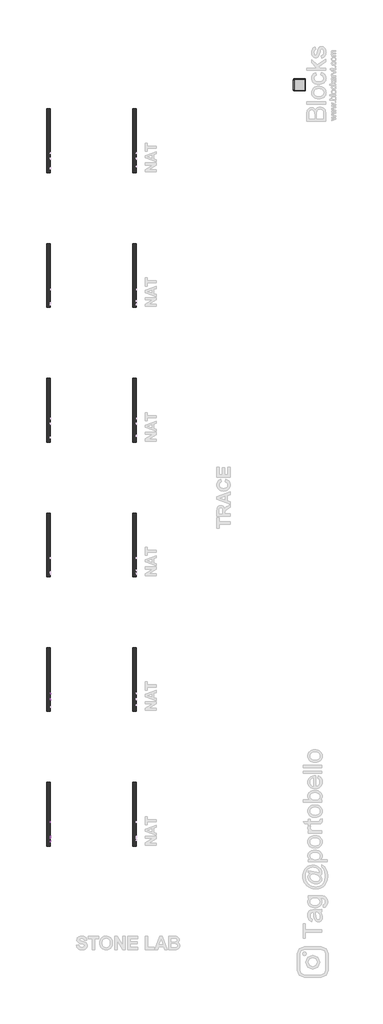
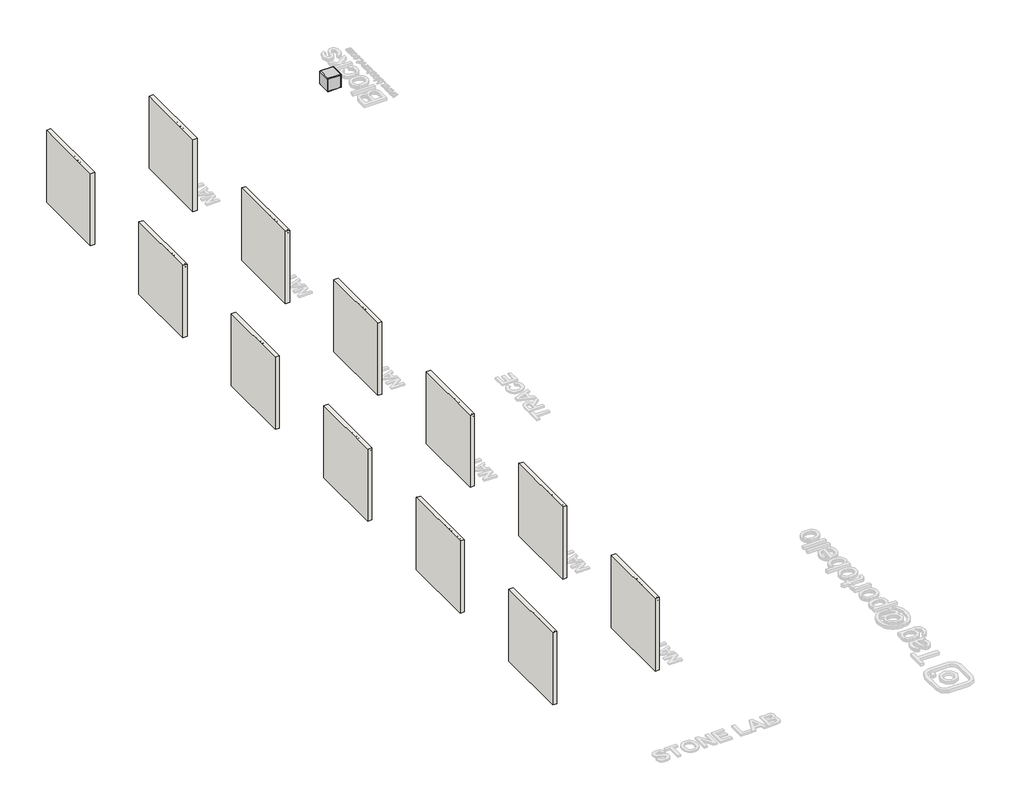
# One storey, part 1 of 9: 12 walls, 5 proxies, 1 furniture element.
"""IFC4 building model written with IfcOpenShell, lengths in millimetres."""

from ifc_helpers import new_model, si_unit, frame, origin, place, context, project, spatial, polyline, outline, extrude, transform, mapped, element, save
from components import branco_22256ad2

model = new_model("IFC4")

# Units and contexts
model_context = context("Model", 3, world=origin())
ifc_project = project(units=[si_unit("LENGTHUNIT", "METRE", prefix="MILLI")], contexts=[model_context])

# Site, building, storey
site = spatial("IfcSite", under=ifc_project)
building = spatial("IfcBuilding", under=site)
storey = spatial("IfcBuildingStorey", under=building, Name="PORTOBELLO - SHOWROOM", Elevation=0.0)

# Proxies
placement = place(None, origin())
element("IfcBuildingElementProxy", 1, Name="10mm Arial", ObjectType="10mm Arial", at=placement, inside=storey, context=model_context, shape_type="SweptSolid", body=[
    extrude(outline(polyline([(-7639.686688, 2567.3783476), (-7636.3389619, 2589.5922887), (-7626.2957834, 2606.3983645), (-7610.9612356, 2616.9749719), (-7591.7394013, 2620.5005077), (-7578.5630945, 2618.8450387), (-7566.7479511, 2613.8786317), (-7556.9377646, 2605.9507747), (-7549.7763284, 2595.4109556), (-7545.3985327, 2582.7680777), (-7543.9392674, 2568.5310445), (-7545.4751747, 2554.1039389), (-7550.0828967, 2541.2832514), (-7557.5079817, 2530.7250381), (-7567.4959778, 2523.0853553), (-7579.2099537, 2518.4500422), (-7591.8129777, 2516.9049378), (-7605.1916196, 2518.6125234), (-7617.0742081, 2523.7352802), (-7626.8598691, 2531.81029), (-7633.9477289, 2542.3746346), (-7639.686688, 2567.3783476)]), holes=[polyline([(-7627.1296493, 2567.2557202), (-7624.6188546, 2551.5410277), (-7617.0864708, 2539.5664687), (-7605.7649024, 2531.9880996), (-7591.8865541, 2529.4619766), (-7577.8058707, 2532.0126251), (-7566.4659082, 2539.6645706), (-7558.9887067, 2552.0070115), (-7556.4963062, 2568.6291463), (-7560.7637373, 2589.3531654), (-7573.234937, 2603.0751638), (-7591.6658249, 2607.9434689), (-7605.1732255, 2605.5982212), (-7616.6572751, 2598.562478), (-7624.5115557, 2586.0452931), (-7627.1296493, 2567.2557202)])]), frame((-17115.5080774, 0.0, 0.0), z_axis=(1.0, 0.0, 0.0), x_axis=(0.0, 1.0, 0.0)), (0.0, 0.0, 1.0), 20.0),
    extrude(outline(polyline([(-7484.2933333, 2518.4745677), (-7484.2933333, 2579.6901317), (-7495.2807422, 2579.6901317), (-7495.2807422, 2592.2471704), (-7484.2933333, 2592.2471704), (-7484.2933333, 2599.6783867), (-7482.9689581, 2610.1507609), (-7476.5432859, 2617.6310281), (-7463.8881453, 2620.5005077), (-7452.4347525, 2619.1270815), (-7454.2741625, 2607.3548577), (-7461.509175, 2607.9434689), (-7469.4186379, 2605.8588043), (-7471.7362945, 2598.0842314), (-7471.7362945, 2592.2471704), (-7457.6096259, 2592.2471704), (-7457.6096259, 2579.6901317), (-7471.7362945, 2579.6901317), (-7471.7362945, 2518.4745677), (-7484.2933333, 2518.4745677)])), frame((-17115.5080774, 0.0, 0.0), z_axis=(1.0, 0.0, 0.0), x_axis=(0.0, 1.0, 0.0)), (0.0, 0.0, 1.0), 20.0),
    extrude(outline(polyline([(-7525.1037093, 2518.4745677), (-7525.1037093, 2579.6901317), (-7536.0911182, 2579.6901317), (-7536.0911182, 2592.2471704), (-7525.1037093, 2592.2471704), (-7525.1037093, 2599.6783867), (-7523.7793341, 2610.1507609), (-7517.3536619, 2617.6310281), (-7504.6985213, 2620.5005077), (-7493.2451285, 2619.1270815), (-7495.0845385, 2607.3548577), (-7502.319551, 2607.9434689), (-7510.2290139, 2605.8588043), (-7512.5466705, 2598.0842314), (-7512.5466705, 2592.2471704), (-7498.4200019, 2592.2471704), (-7498.4200019, 2579.6901317), (-7512.5466705, 2579.6901317), (-7512.5466705, 2518.4745677), (-7525.1037093, 2518.4745677)])), frame((-17115.5080774, 0.0, 0.0), z_axis=(1.0, 0.0, 0.0), x_axis=(0.0, 1.0, 0.0)), (0.0, 0.0, 1.0), 20.0),
    extrude(outline(polyline([(-7387.8346741, 2518.4745677), (-7415.22962, 2618.9308778), (-7402.2801738, 2618.9308778), (-7386.3876716, 2552.9083224), (-7381.4825783, 2532.5276599), (-7376.2341285, 2550.5538776), (-7356.3194499, 2618.9308778), (-7337.65557, 2618.9308778), (-7323.1855448, 2569.3649103), (-7312.4188651, 2532.5276599), (-7307.6609246, 2552.3197112), (-7291.6457951, 2618.9308778), (-7278.6718234, 2618.9308778), (-7306.0422439, 2518.4745677), (-7319.4821994, 2518.4745677), (-7343.5907328, 2595.9750413), (-7346.9507217, 2606.790772), (-7350.7276435, 2593.7677493), (-7372.6779359, 2518.4745677), (-7387.8346741, 2518.4745677)])), frame((-17115.5080774, 0.0, 0.0), z_axis=(1.0, 0.0, 0.0), x_axis=(0.0, 1.0, 0.0)), (0.0, 0.0, 1.0), 20.0),
    extrude(outline(polyline([(-7267.6844145, 2518.4745677), (-7267.6844145, 2618.9308778), (-7255.1273757, 2618.9308778), (-7255.1273757, 2581.9955255), (-7245.3355833, 2590.8614816), (-7233.2751852, 2593.8168003), (-7219.1730421, 2590.5917015), (-7210.6136543, 2581.6766944), (-7208.0384803, 2565.1710556), (-7208.0384803, 2518.4745677), (-7220.5955191, 2518.4745677), (-7220.5955191, 2563.8712059), (-7224.5931701, 2577.1149577), (-7235.9239356, 2581.2597615), (-7246.2123687, 2578.4638583), (-7253.0794993, 2570.8854892), (-7255.1273757, 2557.6662629), (-7255.1273757, 2518.4745677), (-7267.6844145, 2518.4745677)])), frame((-17115.5080774, 0.0, 0.0), z_axis=(1.0, 0.0, 0.0), x_axis=(0.0, 1.0, 0.0)), (0.0, 0.0, 1.0), 20.0),
    extrude(outline(polyline([(-17095.5080774, -7178.2155133), (-17095.5080774, -7190.772552), (-17115.5080774, -7190.772552), (-17115.5080774, -7178.2155133), (-17095.5080774, -7178.2155133)])), frame((0.0, 0.0, 2606.373839), z_axis=(0.0, 0.0, 1.0), x_axis=(1.0, 0.0, 0.0)), (0.0, 0.0, 1.0), 12.5570388),
    extrude(outline(polyline([(-17095.5080774, -7178.2155133), (-17095.5080774, -7190.772552), (-17115.5080774, -7190.772552), (-17115.5080774, -7178.2155133), (-17095.5080774, -7178.2155133)])), frame((0.0, 0.0, 2518.4745677), z_axis=(0.0, 0.0, 1.0), x_axis=(1.0, 0.0, 0.0)), (0.0, 0.0, 1.0), 73.7726028),
    extrude(outline(polyline([(-7132.6962477, 2528.9469418), (-7131.1266179, 2518.1066857), (-7140.5198715, 2516.9049378), (-7151.0412966, 2518.9896025), (-7156.2897464, 2524.4587815), (-7157.8103253, 2538.7080774), (-7157.8103253, 2579.6901317), (-7167.2281043, 2579.6901317), (-7167.2281043, 2592.2471704), (-7157.8103253, 2592.2471704), (-7157.8103253, 2610.1752863), (-7145.2532865, 2617.5574517), (-7145.2532865, 2592.2471704), (-7132.6962477, 2592.2471704), (-7132.6962477, 2579.6901317), (-7145.2532865, 2579.6901317), (-7145.2532865, 2539.0759594), (-7144.5910989, 2532.6012363), (-7142.4451206, 2530.3081052), (-7138.1654267, 2529.4619766), (-7132.6962477, 2528.9469418)])), frame((-17115.5080774, 0.0, 0.0), z_axis=(1.0, 0.0, 0.0), x_axis=(0.0, 1.0, 0.0)), (0.0, 0.0, 1.0), 20.0),
    extrude(outline(polyline([(-7068.4885768, 2540.4493855), (-7056.1767927, 2538.8797557), (-7060.6128365, 2529.602998), (-7067.6914992, 2522.6684224), (-7077.2533654, 2518.345809), (-7089.1390195, 2516.9049378), (-7103.8726934, 2519.391207), (-7115.2095902, 2526.8500144), (-7122.4384714, 2538.7969822), (-7124.8480985, 2554.7477324), (-7122.413946, 2571.2349771), (-7115.1114884, 2583.5651553), (-7103.9278757, 2591.253889), (-7089.850258, 2593.8168003), (-7076.2110331, 2591.2600204), (-7065.312529, 2583.5896808), (-7058.1664212, 2571.2840281), (-7055.7843853, 2554.8213088), (-7055.8579617, 2551.4367944), (-7112.2910597, 2551.4367944), (-7110.1174903, 2542.0374095), (-7105.0683099, 2535.1273593), (-7097.7811807, 2530.8783223), (-7088.8937648, 2529.4619766), (-7076.5819807, 2532.0862015), (-7068.4885768, 2540.4493855)]), holes=[polyline([(-7112.2910597, 2563.9938332), (-7068.341424, 2563.9938332), (-7073.3691446, 2575.3736496), (-7080.6899964, 2579.7882335), (-7089.899309, 2581.2597615), (-7105.3626155, 2576.5631347), (-7110.2278549, 2571.0724959), (-7112.2910597, 2563.9938332)])]), frame((-17115.5080774, 0.0, 0.0), z_axis=(1.0, 0.0, 0.0), x_axis=(0.0, 1.0, 0.0)), (0.0, 0.0, 1.0), 20.0),
    extrude(outline(polyline([(-7002.4169705, 2518.4745677), (-7002.4169705, 2618.9308778), (-6980.8836111, 2618.9308778), (-6960.2822193, 2548.1258565), (-6956.1128901, 2533.3370003), (-6951.6247297, 2549.3521298), (-6931.4157454, 2618.9308778), (-6909.8088096, 2618.9308778), (-6909.8088096, 2518.4745677), (-6922.3658484, 2518.4745677), (-6922.3658484, 2606.373839), (-6947.6025532, 2518.4745677), (-6964.5987014, 2518.4745677), (-6989.8599317, 2606.373839), (-6989.8599317, 2518.4745677), (-7002.4169705, 2518.4745677)])), frame((-17115.5080774, 0.0, 0.0), z_axis=(1.0, 0.0, 0.0), x_axis=(0.0, 1.0, 0.0)), (0.0, 0.0, 1.0), 20.0),
    extrude(outline(polyline([(-17095.5080774, -6876.8465828), (-17095.5080774, -6889.4036216), (-17115.5080774, -6889.4036216), (-17115.5080774, -6876.8465828), (-17095.5080774, -6876.8465828)])), frame((0.0, 0.0, 2606.373839), z_axis=(0.0, 0.0, 1.0), x_axis=(1.0, 0.0, 0.0)), (0.0, 0.0, 1.0), 12.5570388),
    extrude(outline(polyline([(-17095.5080774, -6876.8465828), (-17095.5080774, -6889.4036216), (-17115.5080774, -6889.4036216), (-17115.5080774, -6876.8465828), (-17095.5080774, -6876.8465828)])), frame((0.0, 0.0, 2518.4745677), z_axis=(0.0, 0.0, 1.0), x_axis=(1.0, 0.0, 0.0)), (0.0, 0.0, 1.0), 73.7726028),
    extrude(outline(polyline([(-6865.8591739, 2518.4745677), (-6839.0283137, 2555.5815982), (-6864.2895441, 2592.2471704), (-6849.2309077, 2592.2471704), (-6837.0417509, 2574.5643092), (-6831.3273173, 2566.2501761), (-6826.3731731, 2573.0682557), (-6812.4917591, 2592.2471704), (-6797.3840719, 2592.2471704), (-6823.9206265, 2555.5570728), (-6798.3650905, 2518.4745677), (-6813.4482523, 2518.4745677), (-6828.8502452, 2540.792742), (-6831.6461483, 2544.8884949), (-6850.7514866, 2518.4745677), (-6865.8591739, 2518.4745677)])), frame((-17115.5080774, 0.0, 0.0), z_axis=(1.0, 0.0, 0.0), x_axis=(0.0, 1.0, 0.0)), (0.0, 0.0, 1.0), 20.0),
])
element("IfcBuildingElementProxy", 2, Name="10mm Arial", ObjectType="10mm Arial", at=placement, inside=storey, context=model_context, shape_type="SweptSolid", body=[
    extrude(outline(polyline([(-7638.1170582, 2408.5886452), (-7625.5600194, 2410.158275), (-7619.9191621, 2398.1775847), (-7609.2260588, 2394.4619766), (-7599.060253, 2396.8532096), (-7592.168597, 2403.2420935), (-7588.0605814, 2414.1559261), (-7586.2456969, 2428.7240531), (-7586.3192733, 2431.1765997), (-7596.3624517, 2421.6607188), (-7610.1335011, 2418.0064243), (-7621.5838282, 2420.2382417), (-7631.1150375, 2426.933694), (-7637.5437754, 2437.2773095), (-7639.686688, 2450.4536163), (-7637.4395422, 2464.0652501), (-7630.6981046, 2474.7338279), (-7620.5721527, 2481.6316153), (-7608.1714638, 2483.9308778), (-7590.2801361, 2478.682428), (-7577.968352, 2463.7218935), (-7573.7622345, 2435.6157091), (-7577.9560892, 2405.1182917), (-7583.1708165, 2395.1272299), (-7590.4272889, 2387.8401007), (-7599.4128066, 2383.3887285), (-7609.81467, 2381.9049378), (-7620.5506929, 2383.655443), (-7629.116212, 2388.9069585), (-7635.1065572, 2397.3283905), (-7638.1170582, 2408.5886452)]), holes=[polyline([(-7586.3192733, 2450.7479218), (-7587.6743053, 2459.2582587), (-7591.7394013, 2465.8065582), (-7598.0485775, 2469.9820188), (-7606.1358501, 2471.373839), (-7614.5235596, 2469.8747199), (-7621.2435373, 2465.3773625), (-7625.6581213, 2458.4949035), (-7627.1296493, 2449.8404796), (-7625.737829, 2442.0812352), (-7621.5623684, 2435.9222774), (-7615.0079375, 2431.9031666), (-7606.4792066, 2430.563463), (-7591.9969187, 2435.9222774), (-7587.7386846, 2442.3080957), (-7586.3192733, 2450.7479218)])]), frame((-17115.5080774, 0.0, 0.0), z_axis=(1.0, 0.0, 0.0), x_axis=(0.0, 1.0, 0.0)), (0.0, 0.0, 1.0), 20.0),
    extrude(outline(polyline([(-7567.4837151, 2383.4745677), (-7540.6528549, 2420.5815982), (-7565.9140853, 2457.2471704), (-7550.8554489, 2457.2471704), (-7538.6662921, 2439.5643092), (-7532.9518585, 2431.2501761), (-7527.9977143, 2438.0682557), (-7514.1163003, 2457.2471704), (-7499.0086131, 2457.2471704), (-7525.5451677, 2420.5570728), (-7499.9896317, 2383.4745677), (-7515.0727935, 2383.4745677), (-7530.4747864, 2405.792742), (-7533.2706896, 2409.8884949), (-7552.3760278, 2383.4745677), (-7567.4837151, 2383.4745677)])), frame((-17115.5080774, 0.0, 0.0), z_axis=(1.0, 0.0, 0.0), x_axis=(0.0, 1.0, 0.0)), (0.0, 0.0, 1.0), 20.0),
    extrude(outline(polyline([(-7492.1414825, 2410.158275), (-7479.5844437, 2411.7279049), (-7472.6559995, 2398.5086785), (-7459.6942905, 2394.4619766), (-7451.0858518, 2395.8537968), (-7444.4394504, 2400.0292574), (-7438.7740677, 2413.8125695), (-7444.3903995, 2426.798804), (-7458.6642209, 2431.9368892), (-7467.4688633, 2430.563463), (-7466.0709118, 2443.1205018), (-7464.0598235, 2442.973349), (-7449.8105276, 2446.5785926), (-7445.0648498, 2451.152592), (-7443.4829573, 2457.6641034), (-7448.0692195, 2467.4865526), (-7459.8904942, 2471.373839), (-7471.8589218, 2467.4497644), (-7478.0148139, 2455.6775406), (-7490.5718526, 2457.2471704), (-7486.8746386, 2468.5227536), (-7480.2956822, 2476.9411199), (-7471.2948361, 2482.1834383), (-7460.3319526, 2483.9308778), (-7445.1874772, 2480.4850498), (-7434.5924757, 2471.0672707), (-7430.9259185, 2458.3998673), (-7434.4085347, 2446.8238472), (-7444.7092306, 2438.5097141), (-7431.0240204, 2429.9258009), (-7426.217029, 2413.5918403), (-7428.6205247, 2401.3536326), (-7435.8310118, 2391.1265132), (-7446.7141875, 2384.2103317), (-7460.1357489, 2381.9049378), (-7472.2758547, 2383.8731065), (-7482.1596177, 2389.7776125), (-7489.0328796, 2398.8091155), (-7492.1414825, 2410.158275)])), frame((-17115.5080774, 0.0, 0.0), z_axis=(1.0, 0.0, 0.0), x_axis=(0.0, 1.0, 0.0)), (0.0, 0.0, 1.0), 20.0),
    extrude(outline(polyline([(-7415.22962, 2469.8042092), (-7415.22962, 2482.361248), (-7349.3051665, 2482.361248), (-7349.3051665, 2472.2077049), (-7368.0058346, 2445.1929037), (-7382.3164442, 2410.7714117), (-7386.9762828, 2383.4745677), (-7399.5333216, 2383.4745677), (-7394.5423892, 2411.8014813), (-7380.8449162, 2443.8194776), (-7361.8622053, 2469.8042092), (-7415.22962, 2469.8042092)])), frame((-17115.5080774, 0.0, 0.0), z_axis=(1.0, 0.0, 0.0), x_axis=(0.0, 1.0, 0.0)), (0.0, 0.0, 1.0), 20.0),
])
element("IfcBuildingElementProxy", 3, Name="10mm Arial", ObjectType="10mm Arial", at=placement, inside=storey, context=model_context, shape_type="SweptSolid", body=[
    extrude(outline(polyline([(-1934.9777985, 2518.4745677), (-1934.9777985, 2618.9308778), (-1922.4207597, 2618.9308778), (-1922.4207597, 2531.0316064), (-1872.1926046, 2531.0316064), (-1872.1926046, 2518.4745677), (-1934.9777985, 2518.4745677)])), frame((-17115.5080774, 0.0, 0.0), z_axis=(1.0, 0.0, 0.0), x_axis=(0.0, 1.0, 0.0)), (0.0, 0.0, 1.0), 20.0),
    extrude(outline(polyline([(-17095.5080774, -1847.0785271), (-17095.5080774, -1859.6355659), (-17115.5080774, -1859.6355659), (-17115.5080774, -1847.0785271), (-17095.5080774, -1847.0785271)])), frame((0.0, 0.0, 2518.4745677), z_axis=(0.0, 0.0, 1.0), x_axis=(1.0, 0.0, 0.0)), (0.0, 0.0, 1.0), 73.7726028),
    extrude(outline(polyline([(-17095.5080774, -1847.0785271), (-17095.5080774, -1859.6355659), (-17115.5080774, -1859.6355659), (-17115.5080774, -1847.0785271), (-17095.5080774, -1847.0785271)])), frame((0.0, 0.0, 2606.373839), z_axis=(0.0, 0.0, 1.0), x_axis=(1.0, 0.0, 0.0)), (0.0, 0.0, 1.0), 12.5570388),
    extrude(outline(polyline([(-1828.2429689, 2518.4745677), (-1828.2429689, 2592.2471704), (-1815.6859302, 2592.2471704), (-1815.6859302, 2581.9464746), (-1806.0842101, 2590.8492188), (-1792.9753483, 2593.8168003), (-1781.1172854, 2591.4255673), (-1773.0238815, 2585.1470479), (-1769.2592224, 2575.9132098), (-1768.5970348, 2563.773104), (-1768.5970348, 2518.4745677), (-1781.1540736, 2518.4745677), (-1781.1540736, 2562.0808468), (-1782.6010761, 2573.1908831), (-1787.7146358, 2579.0647323), (-1796.3353372, 2581.2597615), (-1809.9592338, 2576.3301428), (-1814.2542561, 2569.1871007), (-1815.6859302, 2557.6172119), (-1815.6859302, 2518.4745677), (-1828.2429689, 2518.4745677)])), frame((-17115.5080774, 0.0, 0.0), z_axis=(1.0, 0.0, 0.0), x_axis=(0.0, 1.0, 0.0)), (0.0, 0.0, 1.0), 20.0),
    extrude(outline(polyline([(-1699.6804744, 2540.4493855), (-1687.3686903, 2538.8797557), (-1691.804734, 2529.602998), (-1698.8833967, 2522.6684224), (-1708.4452629, 2518.345809), (-1720.330917, 2516.9049378), (-1735.0645909, 2519.391207), (-1746.4014878, 2526.8500144), (-1753.630369, 2538.7969822), (-1756.039996, 2554.7477324), (-1753.6058435, 2571.2349771), (-1746.3033859, 2583.5651553), (-1735.1197732, 2591.253889), (-1721.0421556, 2593.8168003), (-1707.4029306, 2591.2600204), (-1696.5044265, 2583.5896808), (-1689.3583187, 2571.2840281), (-1686.9762828, 2554.8213088), (-1687.0498592, 2551.4367944), (-1743.4829573, 2551.4367944), (-1741.3093878, 2542.0374095), (-1736.2602074, 2535.1273593), (-1728.9730782, 2530.8783223), (-1720.0856624, 2529.4619766), (-1707.7738783, 2532.0862015), (-1699.6804744, 2540.4493855)]), holes=[polyline([(-1743.4829573, 2563.9938332), (-1699.5333216, 2563.9938332), (-1704.5610422, 2575.3736496), (-1711.8818939, 2579.7882335), (-1721.0912065, 2581.2597615), (-1736.554513, 2576.5631347), (-1741.4197524, 2571.0724959), (-1743.4829573, 2563.9938332)])]), frame((-17115.5080774, 0.0, 0.0), z_axis=(1.0, 0.0, 0.0), x_axis=(0.0, 1.0, 0.0)), (0.0, 0.0, 1.0), 20.0),
    extrude(outline(polyline([(-1674.419244, 2518.4745677), (-1674.419244, 2592.2471704), (-1661.8622053, 2592.2471704), (-1661.8622053, 2581.9464746), (-1652.2604852, 2590.8492188), (-1639.1516234, 2593.8168003), (-1627.2935605, 2591.4255673), (-1619.2001566, 2585.1470479), (-1615.4354975, 2575.9132098), (-1614.7733099, 2563.773104), (-1614.7733099, 2518.4745677), (-1627.3303487, 2518.4745677), (-1627.3303487, 2562.0808468), (-1628.7773512, 2573.1908831), (-1633.8909109, 2579.0647323), (-1642.5116123, 2581.2597615), (-1656.1355089, 2576.3301428), (-1660.4305312, 2569.1871007), (-1661.8622053, 2557.6172119), (-1661.8622053, 2518.4745677), (-1674.419244, 2518.4745677)])), frame((-17115.5080774, 0.0, 0.0), z_axis=(1.0, 0.0, 0.0), x_axis=(0.0, 1.0, 0.0)), (0.0, 0.0, 1.0), 20.0),
    extrude(outline(polyline([(-1556.6970056, 2518.4745677), (-1556.6970056, 2618.9308778), (-1535.1636461, 2618.9308778), (-1514.5622544, 2548.1258565), (-1510.3929251, 2533.3370003), (-1505.9047648, 2549.3521298), (-1485.6957805, 2618.9308778), (-1464.0888447, 2618.9308778), (-1464.0888447, 2518.4745677), (-1476.6458834, 2518.4745677), (-1476.6458834, 2606.373839), (-1501.8825883, 2518.4745677), (-1518.8787365, 2518.4745677), (-1544.1399668, 2606.373839), (-1544.1399668, 2518.4745677), (-1556.6970056, 2518.4745677)])), frame((-17115.5080774, 0.0, 0.0), z_axis=(1.0, 0.0, 0.0), x_axis=(0.0, 1.0, 0.0)), (0.0, 0.0, 1.0), 20.0),
    extrude(outline(polyline([(-17095.5080774, -1431.1266179), (-17095.5080774, -1443.6836567), (-17115.5080774, -1443.6836567), (-17115.5080774, -1431.1266179), (-17095.5080774, -1431.1266179)])), frame((0.0, 0.0, 2606.373839), z_axis=(0.0, 0.0, 1.0), x_axis=(1.0, 0.0, 0.0)), (0.0, 0.0, 1.0), 12.5570388),
    extrude(outline(polyline([(-17095.5080774, -1431.1266179), (-17095.5080774, -1443.6836567), (-17115.5080774, -1443.6836567), (-17115.5080774, -1431.1266179), (-17095.5080774, -1431.1266179)])), frame((0.0, 0.0, 2518.4745677), z_axis=(0.0, 0.0, 1.0), x_axis=(1.0, 0.0, 0.0)), (0.0, 0.0, 1.0), 73.7726028),
    extrude(outline(polyline([(-1420.139209, 2518.4745677), (-1393.3083488, 2555.5815982), (-1418.5695791, 2592.2471704), (-1403.5109428, 2592.2471704), (-1391.321786, 2574.5643092), (-1385.6073524, 2566.2501761), (-1380.6532082, 2573.0682557), (-1366.7717942, 2592.2471704), (-1351.6641069, 2592.2471704), (-1378.2006615, 2555.5570728), (-1352.6451256, 2518.4745677), (-1367.7282874, 2518.4745677), (-1383.1302803, 2540.792742), (-1385.9261834, 2544.8884949), (-1405.0315217, 2518.4745677), (-1420.139209, 2518.4745677)])), frame((-17115.5080774, 0.0, 0.0), z_axis=(1.0, 0.0, 0.0), x_axis=(0.0, 1.0, 0.0)), (0.0, 0.0, 1.0), 20.0),
])
element("IfcBuildingElementProxy", 4, Name="10mm Arial Narrow", ObjectType="10mm Arial Narrow", at=placement, inside=storey, context=model_context, shape_type="SweptSolid", body=[
    extrude(outline(polyline([(-6733.0722036, 2518.4745677), (-6733.0722036, 2615.7916181), (-6702.8323036, 2615.7916181), (-6687.0869542, 2613.9767336), (-6676.0014434, 2604.8164719), (-6671.8566396, 2588.3721467), (-6673.5826193, 2576.7041561), (-6678.7605584, 2567.402873), (-6688.1752718, 2561.314426), (-6702.6115744, 2559.2849437), (-6723.6544246, 2559.2849437), (-6723.6544246, 2518.4745677), (-6733.0722036, 2518.4745677)]), holes=[polyline([(-6723.6544246, 2570.2723526), (-6701.4588775, 2570.2723526), (-6686.130461, 2574.6501483), (-6681.2744187, 2587.857112), (-6683.6656517, 2597.6795612), (-6689.441399, 2603.2836303), (-6701.6796067, 2604.8042092), (-6723.6544246, 2604.8042092), (-6723.6544246, 2570.2723526)])]), frame((-17115.5080774, 0.0, 0.0), z_axis=(1.0, 0.0, 0.0), x_axis=(0.0, 1.0, 0.0)), (0.0, 0.0, 1.0), 20.0),
    extrude(outline(polyline([(-6664.0084904, 2553.7912392), (-6662.1200295, 2569.8216971), (-6656.4546468, 2581.3701261), (-6647.895259, 2588.350687), (-6637.324783, 2590.6775406), (-6626.8769344, 2588.350687), (-6618.2930211, 2581.3701261), (-6612.554062, 2570.0056381), (-6610.6410756, 2554.5270032), (-6612.5203395, 2537.9447223), (-6618.1581311, 2526.2123523), (-6626.7083218, 2519.2317914), (-6637.324783, 2516.9049378), (-6647.8186169, 2519.2379228), (-6656.3933331, 2526.2368778), (-6662.1047011, 2537.7914381), (-6664.0084904, 2553.7912392)]), holes=[polyline([(-6654.5907113, 2553.8157647), (-6653.3307155, 2541.6879216), (-6649.550728, 2533.1162711), (-6643.906805, 2528.0211054), (-6637.0550029, 2526.3227169), (-6630.5618857, 2528.0364339), (-6625.0620498, 2533.1775847), (-6621.3096535, 2541.7645636), (-6620.0588547, 2553.8157647), (-6621.3188505, 2565.9068196), (-6625.098838, 2574.4662073), (-6630.742761, 2579.561373), (-6637.5945631, 2581.2597615), (-6644.1336656, 2579.5521759), (-6649.6243044, 2574.4294191), (-6653.3491096, 2565.8608343), (-6654.5907113, 2553.8157647)])]), frame((-17115.5080774, 0.0, 0.0), z_axis=(1.0, 0.0, 0.0), x_axis=(0.0, 1.0, 0.0)), (0.0, 0.0, 1.0), 20.0),
    extrude(outline(polyline([(-6541.5773624, 2526.3227169), (-6540.0077326, 2516.9049378), (-6547.1201178, 2516.9049378), (-6555.1154198, 2518.9528143), (-6559.2847491, 2524.5568833), (-6560.4129206, 2538.7080774), (-6560.4129206, 2579.6901317), (-6568.2610698, 2579.6901317), (-6568.2610698, 2582.8293914), (-6569.8306996, 2578.1205018), (-6577.1392886, 2579.6901317), (-6583.0131378, 2577.4460515), (-6586.7532714, 2571.1797948), (-6588.6662578, 2556.2928368), (-6588.6662578, 2518.4745677), (-6598.0840369, 2518.4745677), (-6598.0840369, 2589.1079107), (-6588.6662578, 2589.1079107), (-6588.6662578, 2579.7391826), (-6582.6329931, 2588.5192995), (-6576.4525756, 2590.6775406), (-6568.2610698, 2589.1079107), (-6560.4129206, 2589.1079107), (-6560.4129206, 2604.8042092), (-6550.9951415, 2612.6523584), (-6550.9951415, 2589.1079107), (-6541.5773624, 2589.1079107), (-6541.5773624, 2579.6901317), (-6550.9951415, 2579.6901317), (-6550.9951415, 2536.5498364), (-6550.1612756, 2528.8243145), (-6545.6976408, 2526.3227169), (-6541.5773624, 2526.3227169)])), frame((-17115.5080774, 0.0, 0.0), z_axis=(1.0, 0.0, 0.0), x_axis=(0.0, 1.0, 0.0)), (0.0, 0.0, 1.0), 20.0),
    extrude(outline(polyline([(-6535.298843, 2553.7912392), (-6533.4103821, 2569.8216971), (-6527.7449994, 2581.3701261), (-6519.1856116, 2588.350687), (-6508.6151356, 2590.6775406), (-6498.167287, 2588.350687), (-6489.5833738, 2581.3701261), (-6483.8444146, 2570.0056381), (-6481.9314283, 2554.5270032), (-6483.8106921, 2537.9447223), (-6489.4484837, 2526.2123523), (-6497.9986744, 2519.2317914), (-6508.6151356, 2516.9049378), (-6519.1089696, 2519.2379228), (-6527.6836857, 2526.2368778), (-6533.3950537, 2537.7914381), (-6535.298843, 2553.7912392)]), holes=[polyline([(-6525.8810639, 2553.8157647), (-6524.6210681, 2541.6879216), (-6520.8410806, 2533.1162711), (-6515.1971577, 2528.0211054), (-6508.3453555, 2526.3227169), (-6501.8522383, 2528.0364339), (-6496.3524025, 2533.1775847), (-6492.6000061, 2541.7645636), (-6491.3492073, 2553.8157647), (-6492.6092032, 2565.9068196), (-6496.3891907, 2574.4662073), (-6502.0331136, 2579.561373), (-6508.8849158, 2581.2597615), (-6515.4240182, 2579.5521759), (-6520.914657, 2574.4294191), (-6524.6394622, 2565.8608343), (-6525.8810639, 2553.8157647)])]), frame((-17115.5080774, 0.0, 0.0), z_axis=(1.0, 0.0, 0.0), x_axis=(0.0, 1.0, 0.0)), (0.0, 0.0, 1.0), 20.0),
    extrude(outline(polyline([(-6459.9566104, 2518.4745677), (-6469.3743895, 2518.4745677), (-6469.3743895, 2615.7916181), (-6459.9566104, 2615.7916181), (-6459.9566104, 2581.5785926), (-6452.807437, 2588.4211977), (-6443.9169554, 2590.6775406), (-6431.4702813, 2586.6185759), (-6422.5062233, 2574.3190545), (-6419.1462344, 2554.3307995), (-6421.0132355, 2538.4321659), (-6426.6142389, 2526.641548), (-6434.7045771, 2519.3390904), (-6444.0395828, 2516.9049378), (-6453.0649544, 2519.4310609), (-6459.9566104, 2526.9358536), (-6459.9566104, 2518.4745677)]), holes=[polyline([(-6459.9566104, 2554.3307995), (-6457.9455222, 2537.6657451), (-6452.255614, 2529.2289847), (-6444.0886337, 2526.3227169), (-6438.3466089, 2528.0517623), (-6433.2851658, 2533.2388984), (-6428.5640135, 2553.938392), (-6433.1134875, 2574.6501483), (-6438.181062, 2579.6073582), (-6444.2848374, 2581.2597615), (-6450.0605847, 2579.5307161), (-6455.1741445, 2574.34358), (-6459.9566104, 2554.3307995)])]), frame((-17115.5080774, 0.0, 0.0), z_axis=(1.0, 0.0, 0.0), x_axis=(0.0, 1.0, 0.0)), (0.0, 0.0, 1.0), 20.0),
    extrude(outline(polyline([(-6368.9180793, 2540.4493855), (-6359.5003003, 2538.8797557), (-6368.6973501, 2522.4476932), (-6385.1784635, 2516.9049378), (-6396.3804703, 2519.2379228), (-6405.2157695, 2526.2368778), (-6410.9547287, 2537.6442853), (-6412.867715, 2553.202628), (-6410.9455316, 2569.3066623), (-6405.1789813, 2581.0758205), (-6396.4693751, 2588.2771106), (-6385.7180238, 2590.6775406), (-6375.3958681, 2588.359884), (-6366.9437793, 2581.4069143), (-6361.3059877, 2570.0638861), (-6359.4267239, 2554.5760541), (-6359.5003003, 2551.4367944), (-6403.449936, 2551.4367944), (-6397.6496632, 2532.6502872), (-6391.9199011, 2527.9046095), (-6385.0558362, 2526.3227169), (-6375.2211242, 2529.854384), (-6368.9180793, 2540.4493855)]), holes=[polyline([(-6402.8122738, 2560.8545735), (-6368.9180793, 2560.8545735), (-6373.0383577, 2574.6378856), (-6378.6669522, 2579.6042925), (-6385.6444474, 2581.2597615), (-6397.4411967, 2575.7415316), (-6402.8122738, 2560.8545735)])]), frame((-17115.5080774, 0.0, 0.0), z_axis=(1.0, 0.0, 0.0), x_axis=(0.0, 1.0, 0.0)), (0.0, 0.0, 1.0), 20.0),
    extrude(outline(polyline([(-17095.5080774, -6337.5254824), (-17095.5080774, -6346.9432615), (-17115.5080774, -6346.9432615), (-17115.5080774, -6337.5254824), (-17095.5080774, -6337.5254824)])), frame((0.0, 0.0, 2518.4745677), z_axis=(0.0, 0.0, 1.0), x_axis=(1.0, 0.0, 0.0)), (0.0, 0.0, 1.0), 97.3170505),
    extrude(outline(polyline([(-17095.5080774, -6312.4114049), (-17095.5080774, -6321.829184), (-17115.5080774, -6321.829184), (-17115.5080774, -6312.4114049), (-17095.5080774, -6312.4114049)])), frame((0.0, 0.0, 2518.4745677), z_axis=(0.0, 0.0, 1.0), x_axis=(1.0, 0.0, 0.0)), (0.0, 0.0, 1.0), 97.3170505),
    extrude(outline(polyline([(-6301.423996, 2553.7912392), (-6299.535535, 2569.8216971), (-6293.8701523, 2581.3701261), (-6285.3107646, 2588.350687), (-6274.7402886, 2590.6775406), (-6264.2924399, 2588.350687), (-6255.7085267, 2581.3701261), (-6249.9695676, 2570.0056381), (-6248.0565812, 2554.5270032), (-6249.935845, 2537.9447223), (-6255.5736366, 2526.2123523), (-6264.1238273, 2519.2317914), (-6274.7402886, 2516.9049378), (-6285.2341225, 2519.2379228), (-6293.8088387, 2526.2368778), (-6299.5202066, 2537.7914381), (-6301.423996, 2553.7912392)]), holes=[polyline([(-6292.0062169, 2553.8157647), (-6290.746221, 2541.6879216), (-6286.9662335, 2533.1162711), (-6281.3223106, 2528.0211054), (-6274.4705084, 2526.3227169), (-6267.9773912, 2528.0364339), (-6262.4775554, 2533.1775847), (-6258.725159, 2541.7645636), (-6257.4743603, 2553.8157647), (-6258.7343561, 2565.9068196), (-6262.5143436, 2574.4662073), (-6268.1582665, 2579.561373), (-6275.0100687, 2581.2597615), (-6281.5491712, 2579.5521759), (-6287.0398099, 2574.4294191), (-6290.7646151, 2565.8608343), (-6292.0062169, 2553.8157647)])]), frame((-17115.5080774, 0.0, 0.0), z_axis=(1.0, 0.0, 0.0), x_axis=(0.0, 1.0, 0.0)), (0.0, 0.0, 1.0), 20.0),
])
element("IfcBuildingElementProxy", 5, Name="10mm Arial Narrow", ObjectType="10mm Arial Narrow", at=placement, inside=storey, context=model_context, shape_type="SweptSolid", body=[
    extrude(outline(polyline([(-1293.0722036, 2518.4745677), (-1293.0722036, 2615.7916181), (-1262.8323036, 2615.7916181), (-1247.0869542, 2613.9767336), (-1236.0014434, 2604.8164719), (-1231.8566396, 2588.3721467), (-1233.5826193, 2576.7041561), (-1238.7605584, 2567.402873), (-1248.1752718, 2561.314426), (-1262.6115744, 2559.2849437), (-1283.6544246, 2559.2849437), (-1283.6544246, 2518.4745677), (-1293.0722036, 2518.4745677)]), holes=[polyline([(-1283.6544246, 2570.2723526), (-1261.4588775, 2570.2723526), (-1246.130461, 2574.6501483), (-1241.2744187, 2587.857112), (-1243.6656517, 2597.6795612), (-1249.441399, 2603.2836303), (-1261.6796067, 2604.8042092), (-1283.6544246, 2604.8042092), (-1283.6544246, 2570.2723526)])]), frame((-17115.5080774, 0.0, 0.0), z_axis=(1.0, 0.0, 0.0), x_axis=(0.0, 1.0, 0.0)), (0.0, 0.0, 1.0), 20.0),
    extrude(outline(polyline([(-1224.0084904, 2553.7912392), (-1222.1200295, 2569.8216971), (-1216.4546468, 2581.3701261), (-1207.895259, 2588.350687), (-1197.324783, 2590.6775406), (-1186.8769344, 2588.350687), (-1178.2930211, 2581.3701261), (-1172.554062, 2570.0056381), (-1170.6410756, 2554.5270032), (-1172.5203395, 2537.9447223), (-1178.1581311, 2526.2123523), (-1186.7083218, 2519.2317914), (-1197.324783, 2516.9049378), (-1207.8186169, 2519.2379228), (-1216.3933331, 2526.2368778), (-1222.1047011, 2537.7914381), (-1224.0084904, 2553.7912392)]), holes=[polyline([(-1214.5907113, 2553.8157647), (-1213.3307155, 2541.6879216), (-1209.550728, 2533.1162711), (-1203.906805, 2528.0211054), (-1197.0550029, 2526.3227169), (-1190.5618857, 2528.0364339), (-1185.0620498, 2533.1775847), (-1181.3096535, 2541.7645636), (-1180.0588547, 2553.8157647), (-1181.3188505, 2565.9068196), (-1185.098838, 2574.4662073), (-1190.742761, 2579.561373), (-1197.5945631, 2581.2597615), (-1204.1336656, 2579.5521759), (-1209.6243044, 2574.4294191), (-1213.3491096, 2565.8608343), (-1214.5907113, 2553.8157647)])]), frame((-17115.5080774, 0.0, 0.0), z_axis=(1.0, 0.0, 0.0), x_axis=(0.0, 1.0, 0.0)), (0.0, 0.0, 1.0), 20.0),
    extrude(outline(polyline([(-1101.5773624, 2526.3227169), (-1100.0077326, 2516.9049378), (-1107.1201178, 2516.9049378), (-1115.1154198, 2518.9528143), (-1119.2847491, 2524.5568833), (-1120.4129206, 2538.7080774), (-1120.4129206, 2579.6901317), (-1128.2610698, 2579.6901317), (-1128.2610698, 2582.8293914), (-1129.8306996, 2578.1205018), (-1137.1392886, 2579.6901317), (-1143.0131378, 2577.4460515), (-1146.7532714, 2571.1797948), (-1148.6662578, 2556.2928368), (-1148.6662578, 2518.4745677), (-1158.0840369, 2518.4745677), (-1158.0840369, 2589.1079107), (-1148.6662578, 2589.1079107), (-1148.6662578, 2579.7391826), (-1142.6329931, 2588.5192995), (-1136.4525756, 2590.6775406), (-1128.2610698, 2589.1079107), (-1120.4129206, 2589.1079107), (-1120.4129206, 2604.8042092), (-1110.9951415, 2612.6523584), (-1110.9951415, 2589.1079107), (-1101.5773624, 2589.1079107), (-1101.5773624, 2579.6901317), (-1110.9951415, 2579.6901317), (-1110.9951415, 2536.5498364), (-1110.1612756, 2528.8243145), (-1105.6976408, 2526.3227169), (-1101.5773624, 2526.3227169)])), frame((-17115.5080774, 0.0, 0.0), z_axis=(1.0, 0.0, 0.0), x_axis=(0.0, 1.0, 0.0)), (0.0, 0.0, 1.0), 20.0),
    extrude(outline(polyline([(-1095.298843, 2553.7912392), (-1093.4103821, 2569.8216971), (-1087.7449994, 2581.3701261), (-1079.1856116, 2588.350687), (-1068.6151356, 2590.6775406), (-1058.167287, 2588.350687), (-1049.5833738, 2581.3701261), (-1043.8444146, 2570.0056381), (-1041.9314283, 2554.5270032), (-1043.8106921, 2537.9447223), (-1049.4484837, 2526.2123523), (-1057.9986744, 2519.2317914), (-1068.6151356, 2516.9049378), (-1079.1089696, 2519.2379228), (-1087.6836857, 2526.2368778), (-1093.3950537, 2537.7914381), (-1095.298843, 2553.7912392)]), holes=[polyline([(-1085.8810639, 2553.8157647), (-1084.6210681, 2541.6879216), (-1080.8410806, 2533.1162711), (-1075.1971577, 2528.0211054), (-1068.3453555, 2526.3227169), (-1061.8522383, 2528.0364339), (-1056.3524025, 2533.1775847), (-1052.6000061, 2541.7645636), (-1051.3492073, 2553.8157647), (-1052.6092032, 2565.9068196), (-1056.3891907, 2574.4662073), (-1062.0331136, 2579.561373), (-1068.8849158, 2581.2597615), (-1075.4240182, 2579.5521759), (-1080.914657, 2574.4294191), (-1084.6394622, 2565.8608343), (-1085.8810639, 2553.8157647)])]), frame((-17115.5080774, 0.0, 0.0), z_axis=(1.0, 0.0, 0.0), x_axis=(0.0, 1.0, 0.0)), (0.0, 0.0, 1.0), 20.0),
    extrude(outline(polyline([(-1019.9566104, 2518.4745677), (-1029.3743895, 2518.4745677), (-1029.3743895, 2615.7916181), (-1019.9566104, 2615.7916181), (-1019.9566104, 2581.5785926), (-1012.807437, 2588.4211977), (-1003.9169554, 2590.6775406), (-991.4702813, 2586.6185759), (-982.5062233, 2574.3190545), (-979.1462344, 2554.3307995), (-981.0132355, 2538.4321659), (-986.6142389, 2526.641548), (-994.7045771, 2519.3390904), (-1004.0395828, 2516.9049378), (-1013.0649544, 2519.4310609), (-1019.9566104, 2526.9358536), (-1019.9566104, 2518.4745677)]), holes=[polyline([(-1019.9566104, 2554.3307995), (-1017.9455222, 2537.6657451), (-1012.255614, 2529.2289847), (-1004.0886337, 2526.3227169), (-998.3466089, 2528.0517623), (-993.2851658, 2533.2388984), (-988.5640135, 2553.938392), (-993.1134875, 2574.6501483), (-998.181062, 2579.6073582), (-1004.2848374, 2581.2597615), (-1010.0605847, 2579.5307161), (-1015.1741445, 2574.34358), (-1019.9566104, 2554.3307995)])]), frame((-17115.5080774, 0.0, 0.0), z_axis=(1.0, 0.0, 0.0), x_axis=(0.0, 1.0, 0.0)), (0.0, 0.0, 1.0), 20.0),
    extrude(outline(polyline([(-928.9180793, 2540.4493855), (-919.5003003, 2538.8797557), (-928.6973501, 2522.4476932), (-945.1784635, 2516.9049378), (-956.3804703, 2519.2379228), (-965.2157695, 2526.2368778), (-970.9547287, 2537.6442853), (-972.867715, 2553.202628), (-970.9455316, 2569.3066623), (-965.1789813, 2581.0758205), (-956.4693751, 2588.2771106), (-945.7180238, 2590.6775406), (-935.3958681, 2588.359884), (-926.9437793, 2581.4069143), (-921.3059877, 2570.0638861), (-919.4267239, 2554.5760541), (-919.5003003, 2551.4367944), (-963.449936, 2551.4367944), (-957.6496632, 2532.6502872), (-951.9199011, 2527.9046095), (-945.0558362, 2526.3227169), (-935.2211242, 2529.854384), (-928.9180793, 2540.4493855)]), holes=[polyline([(-962.8122738, 2560.8545735), (-928.9180793, 2560.8545735), (-933.0383577, 2574.6378856), (-938.6669522, 2579.6042925), (-945.6444474, 2581.2597615), (-957.4411967, 2575.7415316), (-962.8122738, 2560.8545735)])]), frame((-17115.5080774, 0.0, 0.0), z_axis=(1.0, 0.0, 0.0), x_axis=(0.0, 1.0, 0.0)), (0.0, 0.0, 1.0), 20.0),
    extrude(outline(polyline([(-17095.5080774, -897.5254824), (-17095.5080774, -906.9432615), (-17115.5080774, -906.9432615), (-17115.5080774, -897.5254824), (-17095.5080774, -897.5254824)])), frame((0.0, 0.0, 2518.4745677), z_axis=(0.0, 0.0, 1.0), x_axis=(1.0, 0.0, 0.0)), (0.0, 0.0, 1.0), 97.3170505),
    extrude(outline(polyline([(-17095.5080774, -872.4114049), (-17095.5080774, -881.829184), (-17115.5080774, -881.829184), (-17115.5080774, -872.4114049), (-17095.5080774, -872.4114049)])), frame((0.0, 0.0, 2518.4745677), z_axis=(0.0, 0.0, 1.0), x_axis=(1.0, 0.0, 0.0)), (0.0, 0.0, 1.0), 97.3170505),
    extrude(outline(polyline([(-861.423996, 2553.7912392), (-859.535535, 2569.8216971), (-853.8701523, 2581.3701261), (-845.3107646, 2588.350687), (-834.7402886, 2590.6775406), (-824.2924399, 2588.350687), (-815.7085267, 2581.3701261), (-809.9695676, 2570.0056381), (-808.0565812, 2554.5270032), (-809.935845, 2537.9447223), (-815.5736366, 2526.2123523), (-824.1238273, 2519.2317914), (-834.7402886, 2516.9049378), (-845.2341225, 2519.2379228), (-853.8088387, 2526.2368778), (-859.5202066, 2537.7914381), (-861.423996, 2553.7912392)]), holes=[polyline([(-852.0062169, 2553.8157647), (-850.746221, 2541.6879216), (-846.9662335, 2533.1162711), (-841.3223106, 2528.0211054), (-834.4705084, 2526.3227169), (-827.9773912, 2528.0364339), (-822.4775554, 2533.1775847), (-818.725159, 2541.7645636), (-817.4743603, 2553.8157647), (-818.7343561, 2565.9068196), (-822.5143436, 2574.4662073), (-828.1582665, 2579.561373), (-835.0100687, 2581.2597615), (-841.5491712, 2579.5521759), (-847.0398099, 2574.4294191), (-850.7646151, 2565.8608343), (-852.0062169, 2553.8157647)])]), frame((-17115.5080774, 0.0, 0.0), z_axis=(1.0, 0.0, 0.0), x_axis=(0.0, 1.0, 0.0)), (0.0, 0.0, 1.0), 20.0),
])

# Furniture
branco_shape = branco_22256ad2(model_context)
element("IfcFurniture", 6, ObjectType="Blks_Mob_Blocks Revit_Cubo : Branco", at=placement, inside=storey, context=model_context, shape_type="MappedRepresentation", body=[
    mapped(branco_shape, transform((-6564.7851729, 24497.0234179, 0.0), x_axis=(1.0, 0.0, 0.0), y_axis=(0.0, 1.0, 0.0), z_axis=(0.0, 0.0, 1.0))),
])

# Walls
element("IfcWall", 7, ObjectType="PORTOBELLO - STONE LAB TRACE OFF WHITE MIX 09X37 NAT BOLD", at=placement, inside=storey, context=model_context, shape_type="SweptSolid", body=[
    extrude(outline(polyline([(-17115.5080774, -5024.608239), (-17115.5080774, -7724.608239), (-17266.5080774, -7724.608239), (-17266.5080774, -5024.608239), (-17115.5080774, -5024.608239)])), frame((0.0, 0.0, -17.0), z_axis=(0.0, 0.0, 1.0), x_axis=(1.0, 0.0, 0.0)), (0.0, 0.0, 1.0), 2717.0),
])
element("IfcWall", 8, ObjectType="PORTOBELLO - STONE LAB TRACE OFF WHITE MIX 20X20 NAT BOLD", at=placement, inside=storey, context=model_context, shape_type="SweptSolid", body=[
    extrude(outline(polyline([(-13466.0063329, -5024.608239), (-13466.0063329, -7724.608239), (-13616.0063329, -7724.608239), (-13616.0063329, -5024.608239), (-13466.0063329, -5024.608239)])), frame((0.0, 0.0, -17.0), z_axis=(0.0, 0.0, 1.0), x_axis=(1.0, 0.0, 0.0)), (0.0, 0.0, 1.0), 2717.0),
])
element("IfcWall", 9, ObjectType="PORTOBELLO - STONE LAB TRACE LINEN MIX 09X37 NAT BOLD", at=placement, inside=storey, context=model_context, shape_type="SweptSolid", body=[
    extrude(outline(polyline([(-17115.5080774, 675.391761), (-17115.5080774, -2024.608239), (-17266.5080774, -2024.608239), (-17266.5080774, 675.391761), (-17115.5080774, 675.391761)])), frame((0.0, 0.0, -17.0), z_axis=(0.0, 0.0, 1.0), x_axis=(1.0, 0.0, 0.0)), (0.0, 0.0, 1.0), 2717.0),
])
element("IfcWall", 10, ObjectType="PORTOBELLO - STONE LAB TRACE LINEN MIX 20X20 NAT BOLD", at=placement, inside=storey, context=model_context, shape_type="SweptSolid", body=[
    extrude(outline(polyline([(-13466.0063329, 675.391761), (-13466.0063329, -2024.608239), (-13616.0063329, -2024.608239), (-13616.0063329, 675.391761), (-13466.0063329, 675.391761)])), frame((0.0, 0.0, -17.0), z_axis=(0.0, 0.0, 1.0), x_axis=(1.0, 0.0, 0.0)), (0.0, 0.0, 1.0), 2717.0),
])
element("IfcWall", 11, ObjectType="PORTOBELLO - STONE LAB TRACE OCHER MIX 09X37 NAT BOLD", at=placement, inside=storey, context=model_context, shape_type="SweptSolid", body=[
    extrude(outline(polyline([(-17115.5080774, 6375.391761), (-17115.5080774, 3675.391761), (-17266.5080774, 3675.391761), (-17266.5080774, 6375.391761), (-17115.5080774, 6375.391761)])), frame((0.0, 0.0, -17.0), z_axis=(0.0, 0.0, 1.0), x_axis=(1.0, 0.0, 0.0)), (0.0, 0.0, 1.0), 2717.0),
])
element("IfcWall", 12, ObjectType="PORTOBELLO - STONE LAB TRACE OCHER MIX 20X20 NAT BOLD", at=placement, inside=storey, context=model_context, shape_type="SweptSolid", body=[
    extrude(outline(polyline([(-13466.0063329, 6375.391761), (-13466.0063329, 3675.391761), (-13616.0063329, 3675.391761), (-13616.0063329, 6375.391761), (-13466.0063329, 6375.391761)])), frame((0.0, 0.0, -17.0), z_axis=(0.0, 0.0, 1.0), x_axis=(1.0, 0.0, 0.0)), (0.0, 0.0, 1.0), 2717.0),
])
element("IfcWall", 13, ObjectType="PORTOBELLO - STONE LAB TRACE TERRACOTTA MIX 09X37 NAT BOLD", at=placement, inside=storey, context=model_context, shape_type="SweptSolid", body=[
    extrude(outline(polyline([(-17115.5080774, 12075.391761), (-17115.5080774, 9375.391761), (-17266.5080774, 9375.391761), (-17266.5080774, 12075.391761), (-17115.5080774, 12075.391761)])), frame((0.0, 0.0, -17.0), z_axis=(0.0, 0.0, 1.0), x_axis=(1.0, 0.0, 0.0)), (0.0, 0.0, 1.0), 2717.0),
])
element("IfcWall", 14, ObjectType="PORTOBELLO - STONE LAB TRACE TERRACOTTA MIX 20X20 NAT BOLD", at=placement, inside=storey, context=model_context, shape_type="SweptSolid", body=[
    extrude(outline(polyline([(-13466.0063329, 12075.391761), (-13466.0063329, 9375.391761), (-13616.0063329, 9375.391761), (-13616.0063329, 12075.391761), (-13466.0063329, 12075.391761)])), frame((0.0, 0.0, -17.0), z_axis=(0.0, 0.0, 1.0), x_axis=(1.0, 0.0, 0.0)), (0.0, 0.0, 1.0), 2717.0),
])
element("IfcWall", 15, ObjectType="PORTOBELLO - STONE LAB TRACE OLIVE MIX 09X37 NAT BOLD", at=placement, inside=storey, context=model_context, shape_type="SweptSolid", body=[
    extrude(outline(polyline([(-17115.5080774, 17775.391761), (-17115.5080774, 15075.391761), (-17266.5080774, 15075.391761), (-17266.5080774, 17775.391761), (-17115.5080774, 17775.391761)])), frame((0.0, 0.0, -17.0), z_axis=(0.0, 0.0, 1.0), x_axis=(1.0, 0.0, 0.0)), (0.0, 0.0, 1.0), 2717.0),
])
element("IfcWall", 16, ObjectType="PORTOBELLO - STONE LAB TRACE OLIVE MIX 20X20 NAT BOLD", at=placement, inside=storey, context=model_context, shape_type="SweptSolid", body=[
    extrude(outline(polyline([(-13466.0063329, 17775.391761), (-13466.0063329, 15075.391761), (-13616.0063329, 15075.391761), (-13616.0063329, 17775.391761), (-13466.0063329, 17775.391761)])), frame((0.0, 0.0, -17.0), z_axis=(0.0, 0.0, 1.0), x_axis=(1.0, 0.0, 0.0)), (0.0, 0.0, 1.0), 2717.0),
])
element("IfcWall", 17, ObjectType="PORTOBELLO - STONE LAB TRACE COFFEE MIX 09X37 NAT BOLD", at=placement, inside=storey, context=model_context, shape_type="SweptSolid", body=[
    extrude(outline(polyline([(-17115.5080774, 23475.391761), (-17115.5080774, 20775.391761), (-17266.5080774, 20775.391761), (-17266.5080774, 23475.391761), (-17115.5080774, 23475.391761)])), frame((0.0, 0.0, -17.0), z_axis=(0.0, 0.0, 1.0), x_axis=(1.0, 0.0, 0.0)), (0.0, 0.0, 1.0), 2717.0),
])
element("IfcWall", 18, ObjectType="PORTOBELLO - STONE LAB TRACE COFFEE MIX 20X20 NAT BOLD", at=placement, inside=storey, context=model_context, shape_type="SweptSolid", body=[
    extrude(outline(polyline([(-13466.0063329, 23475.391761), (-13466.0063329, 20775.391761), (-13616.0063329, 20775.391761), (-13616.0063329, 23475.391761), (-13466.0063329, 23475.391761)])), frame((0.0, 0.0, -17.0), z_axis=(0.0, 0.0, 1.0), x_axis=(1.0, 0.0, 0.0)), (0.0, 0.0, 1.0), 2717.0),
])

save(model, "model.ifc")
